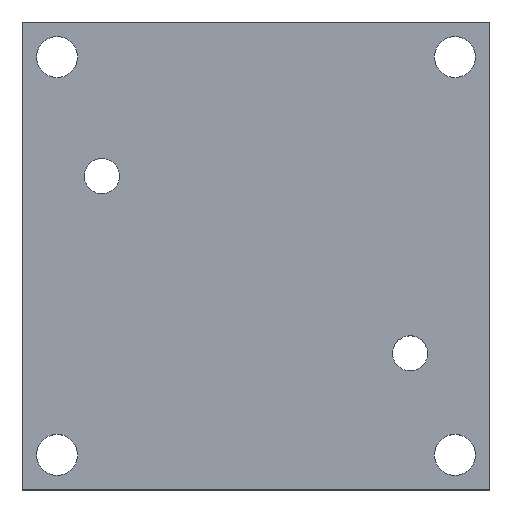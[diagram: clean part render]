
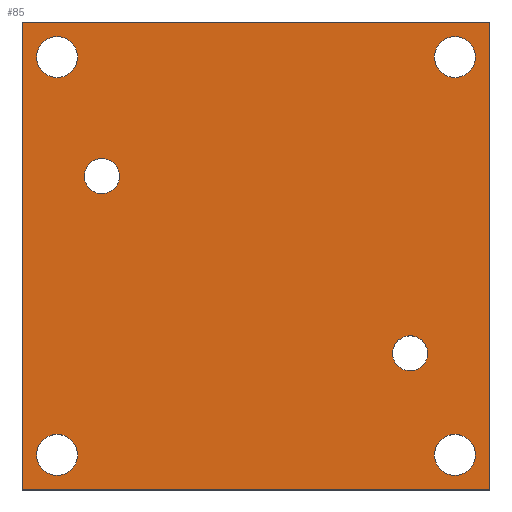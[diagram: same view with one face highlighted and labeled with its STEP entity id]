
A CAD part, top view. The second image highlights one B-rep face of the part: STEP entity #85.
In plain terms, the highlighted planar face has unit normal (0, 0, 1).
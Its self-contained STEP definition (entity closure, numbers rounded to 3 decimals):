
#5 = ORIENTED_EDGE ( 'NONE', *, *, #416, .T. ) ;
#15 = CARTESIAN_POINT ( 'NONE',  ( -15.25, 17., 3. ) ) ;
#22 = DIRECTION ( 'NONE',  ( -1., 0., 0. ) ) ;
#26 = CARTESIAN_POINT ( 'NONE',  ( -20., 20., 3. ) ) ;
#40 = ORIENTED_EDGE ( 'NONE', *, *, #255, .T. ) ;
#41 = VERTEX_POINT ( 'NONE', #400 ) ;
#45 = CARTESIAN_POINT ( 'NONE',  ( 18.75, 17., 3. ) ) ;
#49 = DIRECTION ( 'NONE',  ( 0., 0., -1. ) ) ;
#50 = CIRCLE ( 'NONE', #261, 1.75 ) ;
#56 = FACE_BOUND ( 'NONE', #191, .T. ) ;
#60 = FACE_BOUND ( 'NONE', #103, .T. ) ;
#71 = AXIS2_PLACEMENT_3D ( 'NONE', #364, #572, #620 ) ;
#78 = DIRECTION ( 'NONE',  ( 0., 0., -1. ) ) ;
#80 = AXIS2_PLACEMENT_3D ( 'NONE', #591, #480, #89 ) ;
#85 = ADVANCED_FACE ( 'NONE', ( #56, #100, #60, #110, #307, #646, #97 ), #413, .T. ) ;
#88 = EDGE_LOOP ( 'NONE', ( #98, #376 ) ) ;
#89 = DIRECTION ( 'NONE',  ( -1., 0., 0. ) ) ;
#91 = VERTEX_POINT ( 'NONE', #462 ) ;
#97 = FACE_OUTER_BOUND ( 'NONE', #606, .T. ) ;
#98 = ORIENTED_EDGE ( 'NONE', *, *, #330, .T. ) ;
#99 = AXIS2_PLACEMENT_3D ( 'NONE', #105, #509, #445 ) ;
#100 = FACE_BOUND ( 'NONE', #390, .T. ) ;
#103 = EDGE_LOOP ( 'NONE', ( #306, #222 ) ) ;
#105 = CARTESIAN_POINT ( 'NONE',  ( -17., 17., 3. ) ) ;
#110 = FACE_BOUND ( 'NONE', #88, .T. ) ;
#113 = LINE ( 'NONE', #26, #609 ) ;
#118 = DIRECTION ( 'NONE',  ( -1., 0., 0. ) ) ;
#125 = LINE ( 'NONE', #172, #274 ) ;
#130 = CIRCLE ( 'NONE', #340, 1.5 ) ;
#134 = EDGE_CURVE ( 'NONE', #448, #491, #310, .T. ) ;
#145 = ORIENTED_EDGE ( 'NONE', *, *, #396, .T. ) ;
#146 = DIRECTION ( 'NONE',  ( -1., 0., 0. ) ) ;
#159 = DIRECTION ( 'NONE',  ( -1., 0., 0. ) ) ;
#164 = AXIS2_PLACEMENT_3D ( 'NONE', #530, #377, #638 ) ;
#165 = CARTESIAN_POINT ( 'NONE',  ( -20., -20., 3. ) ) ;
#170 = CARTESIAN_POINT ( 'NONE',  ( 18.75, -17., 3. ) ) ;
#172 = CARTESIAN_POINT ( 'NONE',  ( 20., 20., 3. ) ) ;
#173 = AXIS2_PLACEMENT_3D ( 'NONE', #453, #599, #146 ) ;
#177 = EDGE_CURVE ( 'NONE', #322, #511, #594, .T. ) ;
#178 = VERTEX_POINT ( 'NONE', #321 ) ;
#185 = VERTEX_POINT ( 'NONE', #165 ) ;
#191 = EDGE_LOOP ( 'NONE', ( #537, #432 ) ) ;
#194 = ORIENTED_EDGE ( 'NONE', *, *, #614, .T. ) ;
#195 = DIRECTION ( 'NONE',  ( -1., 0., 0. ) ) ;
#205 = AXIS2_PLACEMENT_3D ( 'NONE', #359, #451, #259 ) ;
#212 = EDGE_CURVE ( 'NONE', #511, #322, #287, .T. ) ;
#217 = CIRCLE ( 'NONE', #237, 1.5 ) ;
#222 = ORIENTED_EDGE ( 'NONE', *, *, #212, .T. ) ;
#227 = VERTEX_POINT ( 'NONE', #369 ) ;
#228 = EDGE_CURVE ( 'NONE', #293, #624, #563, .T. ) ;
#237 = AXIS2_PLACEMENT_3D ( 'NONE', #304, #502, #195 ) ;
#238 = CARTESIAN_POINT ( 'NONE',  ( -20., 20., 3. ) ) ;
#242 = VERTEX_POINT ( 'NONE', #375 ) ;
#249 = ORIENTED_EDGE ( 'NONE', *, *, #515, .T. ) ;
#254 = CARTESIAN_POINT ( 'NONE',  ( 15.25, 17., 3. ) ) ;
#255 = EDGE_CURVE ( 'NONE', #411, #185, #113, .T. ) ;
#259 = DIRECTION ( 'NONE',  ( 1., 0., 0. ) ) ;
#260 = EDGE_LOOP ( 'NONE', ( #610, #593 ) ) ;
#261 = AXIS2_PLACEMENT_3D ( 'NONE', #533, #336, #539 ) ;
#266 = ORIENTED_EDGE ( 'NONE', *, *, #570, .T. ) ;
#268 = DIRECTION ( 'NONE',  ( 0., 0., -1. ) ) ;
#273 = CIRCLE ( 'NONE', #634, 1.5 ) ;
#274 = VECTOR ( 'NONE', #373, 1000. ) ;
#276 = ORIENTED_EDGE ( 'NONE', *, *, #520, .T. ) ;
#278 = VERTEX_POINT ( 'NONE', #314 ) ;
#280 = DIRECTION ( 'NONE',  ( -1., 0., 0. ) ) ;
#287 = CIRCLE ( 'NONE', #510, 1.75 ) ;
#288 = EDGE_LOOP ( 'NONE', ( #249, #145 ) ) ;
#293 = VERTEX_POINT ( 'NONE', #170 ) ;
#297 = CARTESIAN_POINT ( 'NONE',  ( 17., 17., 3. ) ) ;
#304 = CARTESIAN_POINT ( 'NONE',  ( 13.175, -8.325, 3. ) ) ;
#306 = ORIENTED_EDGE ( 'NONE', *, *, #177, .T. ) ;
#307 = FACE_BOUND ( 'NONE', #260, .T. ) ;
#310 = CIRCLE ( 'NONE', #476, 1.75 ) ;
#314 = CARTESIAN_POINT ( 'NONE',  ( 11.675, -8.325, 3. ) ) ;
#318 = DIRECTION ( 'NONE',  ( 0., 0., -1. ) ) ;
#321 = CARTESIAN_POINT ( 'NONE',  ( 20., -20., 3. ) ) ;
#322 = VERTEX_POINT ( 'NONE', #387 ) ;
#330 = EDGE_CURVE ( 'NONE', #491, #448, #512, .T. ) ;
#336 = DIRECTION ( 'NONE',  ( 0., 0., -1. ) ) ;
#340 = AXIS2_PLACEMENT_3D ( 'NONE', #584, #78, #280 ) ;
#349 = EDGE_CURVE ( 'NONE', #624, #293, #50, .T. ) ;
#351 = CIRCLE ( 'NONE', #636, 1.75 ) ;
#359 = CARTESIAN_POINT ( 'NONE',  ( 0., 0., 3. ) ) ;
#364 = CARTESIAN_POINT ( 'NONE',  ( 17., -17., 3. ) ) ;
#369 = CARTESIAN_POINT ( 'NONE',  ( 20., 20., 3. ) ) ;
#373 = DIRECTION ( 'NONE',  ( 0., 1., 0. ) ) ;
#375 = CARTESIAN_POINT ( 'NONE',  ( -15.25, -17., 3. ) ) ;
#376 = ORIENTED_EDGE ( 'NONE', *, *, #134, .T. ) ;
#377 = DIRECTION ( 'NONE',  ( 0., 0., -1. ) ) ;
#379 = CARTESIAN_POINT ( 'NONE',  ( -17., -17., 3. ) ) ;
#387 = CARTESIAN_POINT ( 'NONE',  ( -18.75, 17., 3. ) ) ;
#390 = EDGE_LOOP ( 'NONE', ( #5, #194 ) ) ;
#396 = EDGE_CURVE ( 'NONE', #41, #484, #130, .T. ) ;
#399 = CARTESIAN_POINT ( 'NONE',  ( -20., -20., 3. ) ) ;
#400 = CARTESIAN_POINT ( 'NONE',  ( -11.675, 6.825, 3. ) ) ;
#411 = VERTEX_POINT ( 'NONE', #238 ) ;
#412 = LINE ( 'NONE', #399, #542 ) ;
#413 = PLANE ( 'NONE',  #205 ) ;
#416 = EDGE_CURVE ( 'NONE', #91, #242, #565, .T. ) ;
#427 = DIRECTION ( 'NONE',  ( -1., 0., 0. ) ) ;
#432 = ORIENTED_EDGE ( 'NONE', *, *, #228, .T. ) ;
#444 = CARTESIAN_POINT ( 'NONE',  ( -14.675, 6.825, 3. ) ) ;
#445 = DIRECTION ( 'NONE',  ( -1., 0., 0. ) ) ;
#448 = VERTEX_POINT ( 'NONE', #45 ) ;
#451 = DIRECTION ( 'NONE',  ( 0., 0., 1. ) ) ;
#452 = ORIENTED_EDGE ( 'NONE', *, *, #621, .T. ) ;
#453 = CARTESIAN_POINT ( 'NONE',  ( -13.175, 6.825, 3. ) ) ;
#461 = CIRCLE ( 'NONE', #173, 1.5 ) ;
#462 = CARTESIAN_POINT ( 'NONE',  ( -18.75, -17., 3. ) ) ;
#472 = EDGE_CURVE ( 'NONE', #564, #278, #217, .T. ) ;
#476 = AXIS2_PLACEMENT_3D ( 'NONE', #297, #49, #159 ) ;
#480 = DIRECTION ( 'NONE',  ( 0., 0., -1. ) ) ;
#481 = DIRECTION ( 'NONE',  ( -1., 0., 0. ) ) ;
#484 = VERTEX_POINT ( 'NONE', #444 ) ;
#486 = CARTESIAN_POINT ( 'NONE',  ( 15.25, -17., 3. ) ) ;
#491 = VERTEX_POINT ( 'NONE', #254 ) ;
#502 = DIRECTION ( 'NONE',  ( 0., 0., -1. ) ) ;
#509 = DIRECTION ( 'NONE',  ( 0., 0., -1. ) ) ;
#510 = AXIS2_PLACEMENT_3D ( 'NONE', #617, #318, #22 ) ;
#511 = VERTEX_POINT ( 'NONE', #15 ) ;
#512 = CIRCLE ( 'NONE', #80, 1.75 ) ;
#515 = EDGE_CURVE ( 'NONE', #484, #41, #461, .T. ) ;
#517 = CARTESIAN_POINT ( 'NONE',  ( 13.175, -8.325, 3. ) ) ;
#520 = EDGE_CURVE ( 'NONE', #185, #178, #412, .T. ) ;
#522 = DIRECTION ( 'NONE',  ( 0., -1., 0. ) ) ;
#530 = CARTESIAN_POINT ( 'NONE',  ( -17., -17., 3. ) ) ;
#533 = CARTESIAN_POINT ( 'NONE',  ( 17., -17., 3. ) ) ;
#537 = ORIENTED_EDGE ( 'NONE', *, *, #349, .T. ) ;
#539 = DIRECTION ( 'NONE',  ( -1., 0., 0. ) ) ;
#542 = VECTOR ( 'NONE', #645, 1000. ) ;
#563 = CIRCLE ( 'NONE', #71, 1.75 ) ;
#564 = VERTEX_POINT ( 'NONE', #571 ) ;
#565 = CIRCLE ( 'NONE', #164, 1.75 ) ;
#566 = CARTESIAN_POINT ( 'NONE',  ( -20., 20., 3. ) ) ;
#570 = EDGE_CURVE ( 'NONE', #227, #411, #573, .T. ) ;
#571 = CARTESIAN_POINT ( 'NONE',  ( 14.675, -8.325, 3. ) ) ;
#572 = DIRECTION ( 'NONE',  ( 0., 0., -1. ) ) ;
#573 = LINE ( 'NONE', #566, #597 ) ;
#582 = DIRECTION ( 'NONE',  ( 0., 0., -1. ) ) ;
#584 = CARTESIAN_POINT ( 'NONE',  ( -13.175, 6.825, 3. ) ) ;
#591 = CARTESIAN_POINT ( 'NONE',  ( 17., 17., 3. ) ) ;
#593 = ORIENTED_EDGE ( 'NONE', *, *, #472, .T. ) ;
#594 = CIRCLE ( 'NONE', #99, 1.75 ) ;
#597 = VECTOR ( 'NONE', #118, 1000. ) ;
#599 = DIRECTION ( 'NONE',  ( 0., 0., -1. ) ) ;
#605 = EDGE_CURVE ( 'NONE', #278, #564, #273, .T. ) ;
#606 = EDGE_LOOP ( 'NONE', ( #452, #266, #40, #276 ) ) ;
#609 = VECTOR ( 'NONE', #522, 1000. ) ;
#610 = ORIENTED_EDGE ( 'NONE', *, *, #605, .T. ) ;
#614 = EDGE_CURVE ( 'NONE', #242, #91, #351, .T. ) ;
#617 = CARTESIAN_POINT ( 'NONE',  ( -17., 17., 3. ) ) ;
#620 = DIRECTION ( 'NONE',  ( -1., 0., 0. ) ) ;
#621 = EDGE_CURVE ( 'NONE', #178, #227, #125, .T. ) ;
#624 = VERTEX_POINT ( 'NONE', #486 ) ;
#634 = AXIS2_PLACEMENT_3D ( 'NONE', #517, #268, #427 ) ;
#636 = AXIS2_PLACEMENT_3D ( 'NONE', #379, #582, #481 ) ;
#638 = DIRECTION ( 'NONE',  ( -1., 0., 0. ) ) ;
#645 = DIRECTION ( 'NONE',  ( 1., 0., 0. ) ) ;
#646 = FACE_BOUND ( 'NONE', #288, .T. ) ;
